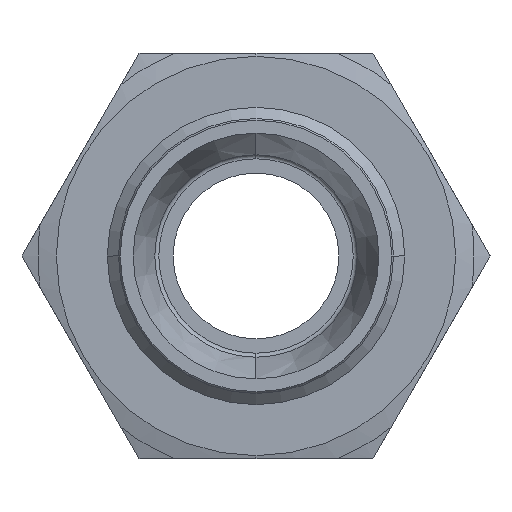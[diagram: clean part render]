
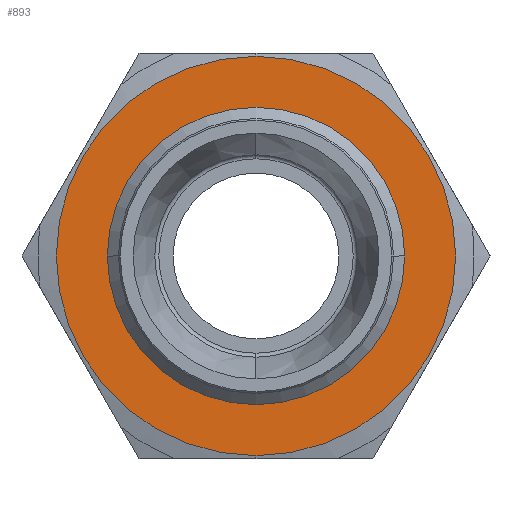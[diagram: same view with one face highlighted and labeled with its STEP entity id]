
A CAD part, left-side view. The second image highlights one B-rep face of the part: STEP entity #893.
In plain terms, the highlighted planar face has unit normal (-1, 0, 0).
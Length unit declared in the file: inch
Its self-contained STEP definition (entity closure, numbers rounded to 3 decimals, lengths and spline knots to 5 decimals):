
#15 = VERTEX_POINT ( 'NONE', #785 ) ;
#58 = AXIS2_PLACEMENT_3D ( 'NONE', #1335, #200, #342 ) ;
#68 = EDGE_CURVE ( 'NONE', #516, #1310, #1579, .T. ) ;
#78 = DIRECTION ( 'NONE',  ( -1., 0., 0. ) ) ;
#88 = CARTESIAN_POINT ( 'NONE',  ( 0.47, -0.355, 0. ) ) ;
#100 = DIRECTION ( 'NONE',  ( -1., 0., 0. ) ) ;
#121 = ORIENTED_EDGE ( 'NONE', *, *, #1377, .T. ) ;
#187 = EDGE_CURVE ( 'NONE', #1558, #15, #1115, .T. ) ;
#200 = DIRECTION ( 'NONE',  ( -1., 0., 0. ) ) ;
#267 = DIRECTION ( 'NONE',  ( 0., 0., 1. ) ) ;
#341 = ORIENTED_EDGE ( 'NONE', *, *, #655, .F. ) ;
#342 = DIRECTION ( 'NONE',  ( 0., -1., 0. ) ) ;
#449 = CARTESIAN_POINT ( 'NONE',  ( 0.47, 0., 0. ) ) ;
#516 = VERTEX_POINT ( 'NONE', #1371 ) ;
#524 = AXIS2_PLACEMENT_3D ( 'NONE', #449, #1160, #1175 ) ;
#561 = AXIS2_PLACEMENT_3D ( 'NONE', #88, #78, #1659 ) ;
#629 = DIRECTION ( 'NONE',  ( -1., 0., 0. ) ) ;
#655 = EDGE_CURVE ( 'NONE', #1310, #516, #1704, .T. ) ;
#668 = CARTESIAN_POINT ( 'NONE',  ( 0.47, 0., 0. ) ) ;
#673 = PLANE ( 'NONE',  #561 ) ;
#702 = ORIENTED_EDGE ( 'NONE', *, *, #187, .T. ) ;
#785 = CARTESIAN_POINT ( 'NONE',  ( 0.47, 0., 0.5 ) ) ;
#893 = ADVANCED_FACE ( 'NONE', ( #1805, #940 ), #673, .T. ) ;
#900 = ORIENTED_EDGE ( 'NONE', *, *, #68, .F. ) ;
#940 = FACE_OUTER_BOUND ( 'NONE', #1588, .T. ) ;
#999 = AXIS2_PLACEMENT_3D ( 'NONE', #1823, #629, #1791 ) ;
#1014 = CARTESIAN_POINT ( 'NONE',  ( 0.47, 0., -0.5 ) ) ;
#1018 = AXIS2_PLACEMENT_3D ( 'NONE', #668, #100, #267 ) ;
#1115 = CIRCLE ( 'NONE', #1018, 0.5 ) ;
#1160 = DIRECTION ( 'NONE',  ( -1., 0., 0. ) ) ;
#1175 = DIRECTION ( 'NONE',  ( 0., 0., 1. ) ) ;
#1275 = CARTESIAN_POINT ( 'NONE',  ( 0.47, -0.355, 0. ) ) ;
#1310 = VERTEX_POINT ( 'NONE', #1275 ) ;
#1335 = CARTESIAN_POINT ( 'NONE',  ( 0.47, 0., 0. ) ) ;
#1371 = CARTESIAN_POINT ( 'NONE',  ( 0.47, 0.355, 0. ) ) ;
#1377 = EDGE_CURVE ( 'NONE', #15, #1558, #1400, .T. ) ;
#1400 = CIRCLE ( 'NONE', #524, 0.5 ) ;
#1432 = EDGE_LOOP ( 'NONE', ( #341, #900 ) ) ;
#1558 = VERTEX_POINT ( 'NONE', #1014 ) ;
#1579 = CIRCLE ( 'NONE', #999, 0.355 ) ;
#1588 = EDGE_LOOP ( 'NONE', ( #702, #121 ) ) ;
#1659 = DIRECTION ( 'NONE',  ( 0., -1., 0. ) ) ;
#1704 = CIRCLE ( 'NONE', #58, 0.355 ) ;
#1791 = DIRECTION ( 'NONE',  ( 0., -1., 0. ) ) ;
#1805 = FACE_BOUND ( 'NONE', #1432, .T. ) ;
#1823 = CARTESIAN_POINT ( 'NONE',  ( 0.47, 0., 0. ) ) ;
